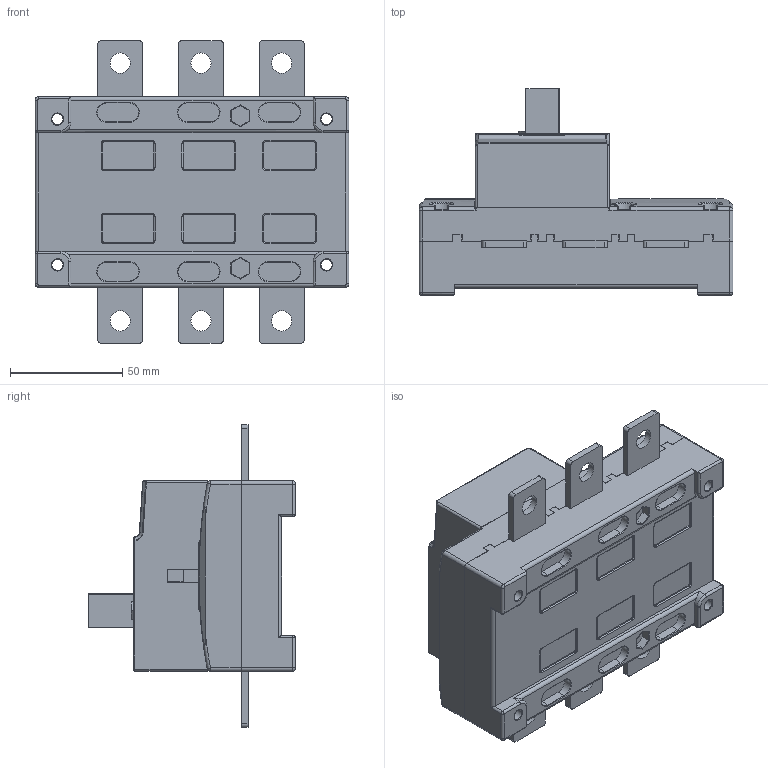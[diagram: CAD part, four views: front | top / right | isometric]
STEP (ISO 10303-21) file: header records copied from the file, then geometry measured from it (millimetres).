
FILE_DESCRIPTION((''),'2;1');
FILE_NAME('NH40-160-3_ASM_ASM','2019-01-16T',('zhuanghy'),(''),'PRO/ENGINEER BY PARAMETRIC TECHNOLOGY CORPORATION, 2008380','PRO/ENGINEER BY PARAMETRIC TECHNOLOGY CORPORATION, 2008380','');
FILE_SCHEMA(('CONFIG_CONTROL_DESIGN'));
Length unit declared in the file: millimetre
Products named in the file (8): PRT1118_41; PRT0102_59; PRT001_13; PRT0030; NH40-160POCHA_61; ASM0003_ASM_5_ASM_ASM; ASM0001_ASM; NH40-160-3_ASM_ASM
Assembly tree (12 placements, depth 4):
  NH40-160-3_ASM_ASM
    ASM0001_ASM
      ASM0003_ASM_5_ASM_ASM
        PRT1118_41
        PRT0102_59
        PRT001_13
        PRT0030  x6
        NH40-160POCHA_61
Bounding box: 140 x 92 x 135 mm (x, y, z)
Volume: 469409 mm3; surface area: 127225.1 mm2
Topology: 10 solids, 10 shells, 1293 faces, 3484 edges, 2228 vertices
Faces by surface type: plane 622, cylinder 454, torus 130, bspline 62, sphere 23, cone 2
Entity records: 42547 total; most frequent: CARTESIAN_POINT 11817, ORIENTED_EDGE 6506, DIRECTION 6363, EDGE_CURVE 3253, AXIS2_PLACEMENT_3D 2216, VERTEX_POINT 2088, VECTOR 1931, LINE 1931
